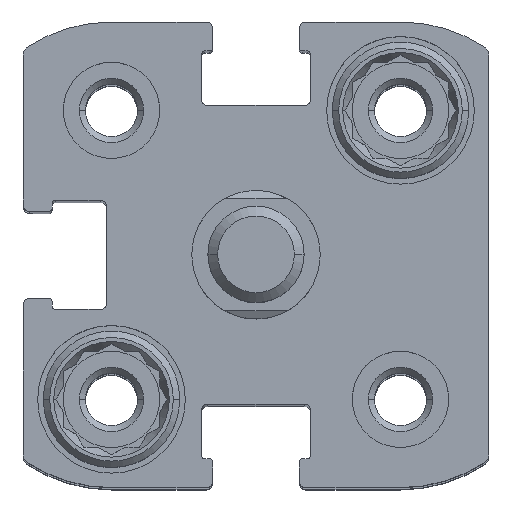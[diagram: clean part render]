
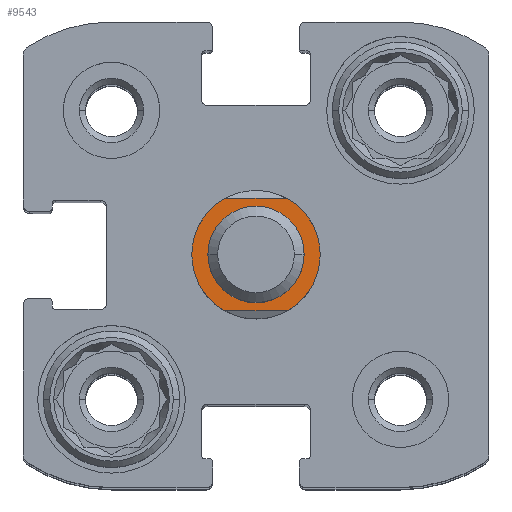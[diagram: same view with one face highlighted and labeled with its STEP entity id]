
A CAD part, top view. The second image highlights one B-rep face of the part: STEP entity #9543.
In plain terms, the highlighted planar face has unit normal (0, 0, 1).
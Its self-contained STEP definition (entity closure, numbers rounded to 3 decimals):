
#166 = CARTESIAN_POINT ( 'NONE',  ( 2.65, 0., 5.35 ) ) ;
#363 = CARTESIAN_POINT ( 'NONE',  ( 0., 0., 5.35 ) ) ;
#512 = CARTESIAN_POINT ( 'NONE',  ( 0., 0., 5.35 ) ) ;
#837 = VERTEX_POINT ( 'NONE', #2814 ) ;
#941 = EDGE_CURVE ( 'NONE', #837, #960, #3003, .T. ) ;
#960 = VERTEX_POINT ( 'NONE', #5618 ) ;
#1010 = DIRECTION ( 'NONE',  ( 1., 0., 0. ) ) ;
#1127 = CARTESIAN_POINT ( 'NONE',  ( 0., 3.5, 5.35 ) ) ;
#1141 = DIRECTION ( 'NONE',  ( 0., 0., -1. ) ) ;
#1616 = VECTOR ( 'NONE', #7743, 1000. ) ;
#2217 = FACE_BOUND ( 'NONE', #9072, .T. ) ;
#2360 = ORIENTED_EDGE ( 'NONE', *, *, #5463, .F. ) ;
#2790 = ORIENTED_EDGE ( 'NONE', *, *, #3884, .F. ) ;
#2814 = CARTESIAN_POINT ( 'NONE',  ( -1.936, 3.5, 5.35 ) ) ;
#3003 = LINE ( 'NONE', #1127, #7764 ) ;
#3066 = PLANE ( 'NONE',  #4417 ) ;
#3178 = ORIENTED_EDGE ( 'NONE', *, *, #3931, .T. ) ;
#3316 = CIRCLE ( 'NONE', #9381, 4. ) ;
#3509 = ORIENTED_EDGE ( 'NONE', *, *, #9804, .T. ) ;
#3639 = EDGE_LOOP ( 'NONE', ( #2790, #2360, #9005, #8224, #9313, #9228 ) ) ;
#3658 = AXIS2_PLACEMENT_3D ( 'NONE', #6963, #11491, #10596 ) ;
#3844 = CIRCLE ( 'NONE', #3658, 4. ) ;
#3855 = DIRECTION ( 'NONE',  ( 0., 0., -1. ) ) ;
#3884 = EDGE_CURVE ( 'NONE', #10214, #7155, #3960, .T. ) ;
#3931 = EDGE_CURVE ( 'NONE', #9187, #6009, #7617, .T. ) ;
#3960 = LINE ( 'NONE', #11322, #1616 ) ;
#3997 = CARTESIAN_POINT ( 'NONE',  ( -4., 0., 5.35 ) ) ;
#4417 = AXIS2_PLACEMENT_3D ( 'NONE', #6800, #1141, #6570 ) ;
#4676 = EDGE_CURVE ( 'NONE', #5670, #837, #6901, .T. ) ;
#4699 = CARTESIAN_POINT ( 'NONE',  ( 4., 0., 5.35 ) ) ;
#4710 = CARTESIAN_POINT ( 'NONE',  ( 0., 0., 5.35 ) ) ;
#4795 = CARTESIAN_POINT ( 'NONE',  ( 0., 0., 5.35 ) ) ;
#4895 = DIRECTION ( 'NONE',  ( 1., 0., 0. ) ) ;
#5026 = DIRECTION ( 'NONE',  ( 0., 0., -1. ) ) ;
#5183 = CIRCLE ( 'NONE', #8206, 4. ) ;
#5463 = EDGE_CURVE ( 'NONE', #5848, #10214, #5183, .T. ) ;
#5618 = CARTESIAN_POINT ( 'NONE',  ( 1.936, 3.5, 5.35 ) ) ;
#5670 = VERTEX_POINT ( 'NONE', #3997 ) ;
#5848 = VERTEX_POINT ( 'NONE', #4699 ) ;
#6009 = VERTEX_POINT ( 'NONE', #10392 ) ;
#6254 = DIRECTION ( 'NONE',  ( 1., 0., 0. ) ) ;
#6294 = CARTESIAN_POINT ( 'NONE',  ( -1.936, -3.5, 5.35 ) ) ;
#6431 = DIRECTION ( 'NONE',  ( 0., 0., -1. ) ) ;
#6570 = DIRECTION ( 'NONE',  ( 0., -1., 0. ) ) ;
#6702 = CIRCLE ( 'NONE', #8599, 2.65 ) ;
#6800 = CARTESIAN_POINT ( 'NONE',  ( 0., 0., 5.35 ) ) ;
#6901 = CIRCLE ( 'NONE', #7467, 4. ) ;
#6963 = CARTESIAN_POINT ( 'NONE',  ( 0., 0., 5.35 ) ) ;
#7155 = VERTEX_POINT ( 'NONE', #6294 ) ;
#7196 = CARTESIAN_POINT ( 'NONE',  ( 1.936, -3.5, 5.35 ) ) ;
#7467 = AXIS2_PLACEMENT_3D ( 'NONE', #4795, #3855, #9304 ) ;
#7572 = DIRECTION ( 'NONE',  ( 1., 0., 0. ) ) ;
#7617 = CIRCLE ( 'NONE', #8384, 2.65 ) ;
#7743 = DIRECTION ( 'NONE',  ( -1., 0., 0. ) ) ;
#7764 = VECTOR ( 'NONE', #4895, 1000. ) ;
#8206 = AXIS2_PLACEMENT_3D ( 'NONE', #4710, #8327, #1010 ) ;
#8224 = ORIENTED_EDGE ( 'NONE', *, *, #941, .F. ) ;
#8327 = DIRECTION ( 'NONE',  ( 0., 0., -1. ) ) ;
#8384 = AXIS2_PLACEMENT_3D ( 'NONE', #363, #5026, #7572 ) ;
#8599 = AXIS2_PLACEMENT_3D ( 'NONE', #10003, #6431, #6254 ) ;
#8913 = EDGE_CURVE ( 'NONE', #7155, #5670, #3844, .T. ) ;
#9005 = ORIENTED_EDGE ( 'NONE', *, *, #10459, .F. ) ;
#9072 = EDGE_LOOP ( 'NONE', ( #3178, #3509 ) ) ;
#9187 = VERTEX_POINT ( 'NONE', #166 ) ;
#9228 = ORIENTED_EDGE ( 'NONE', *, *, #8913, .F. ) ;
#9304 = DIRECTION ( 'NONE',  ( 1., 0., 0. ) ) ;
#9313 = ORIENTED_EDGE ( 'NONE', *, *, #4676, .F. ) ;
#9381 = AXIS2_PLACEMENT_3D ( 'NONE', #512, #9690, #11357 ) ;
#9543 = ADVANCED_FACE ( 'NONE', ( #11327, #2217 ), #3066, .F. ) ;
#9690 = DIRECTION ( 'NONE',  ( 0., 0., -1. ) ) ;
#9804 = EDGE_CURVE ( 'NONE', #6009, #9187, #6702, .T. ) ;
#10003 = CARTESIAN_POINT ( 'NONE',  ( 0., 0., 5.35 ) ) ;
#10214 = VERTEX_POINT ( 'NONE', #7196 ) ;
#10392 = CARTESIAN_POINT ( 'NONE',  ( -2.65, 0., 5.35 ) ) ;
#10459 = EDGE_CURVE ( 'NONE', #960, #5848, #3316, .T. ) ;
#10596 = DIRECTION ( 'NONE',  ( 1., 0., 0. ) ) ;
#11322 = CARTESIAN_POINT ( 'NONE',  ( 0., -3.5, 5.35 ) ) ;
#11327 = FACE_OUTER_BOUND ( 'NONE', #3639, .T. ) ;
#11357 = DIRECTION ( 'NONE',  ( 1., 0., 0. ) ) ;
#11491 = DIRECTION ( 'NONE',  ( 0., 0., -1. ) ) ;
